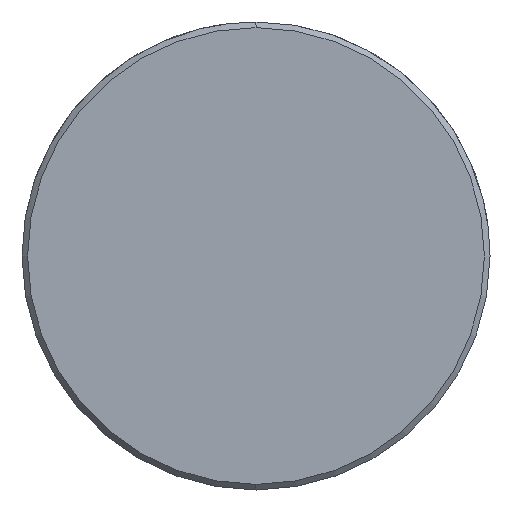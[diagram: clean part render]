
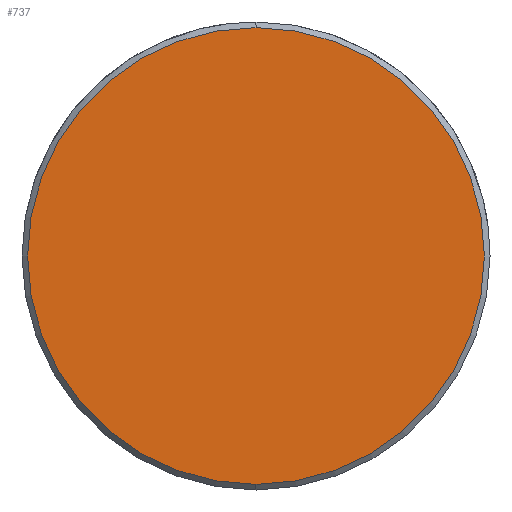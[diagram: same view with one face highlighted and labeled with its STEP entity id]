
A CAD part, left-side view. The second image highlights one B-rep face of the part: STEP entity #737.
In plain terms, the highlighted planar face has unit normal (-1, 0, 0).
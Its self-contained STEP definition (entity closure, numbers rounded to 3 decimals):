
#669=CARTESIAN_POINT('Vertex',(0.,0.,-12.2)) ;
#672=CARTESIAN_POINT('Axis2P3D Location',(0.,0.,0.)) ;
#676=CARTESIAN_POINT('Vertex',(0.,12.2,0.)) ;
#679=CARTESIAN_POINT('Axis2P3D Location',(0.,0.,0.)) ;
#683=CARTESIAN_POINT('Vertex',(0.,0.,12.2)) ;
#705=CARTESIAN_POINT('Axis2P3D Location',(0.,0.,0.)) ;
#709=CARTESIAN_POINT('Vertex',(0.,-12.2,0.)) ;
#712=CARTESIAN_POINT('Axis2P3D Location',(0.,0.,0.)) ;
#726=CARTESIAN_POINT('Axis2P3D Location',(0.,0.,0.)) ;
#673=DIRECTION('Axis2P3D Direction',(1.,0.,-0.)) ;
#680=DIRECTION('Axis2P3D Direction',(1.,0.,-0.)) ;
#706=DIRECTION('Axis2P3D Direction',(1.,0.,-0.)) ;
#713=DIRECTION('Axis2P3D Direction',(1.,0.,-0.)) ;
#727=DIRECTION('Axis2P3D Direction',(1.,0.,-0.)) ;
#728=DIRECTION('Axis2P3D XDirection',(-0.,0.,-1.)) ;
#674=AXIS2_PLACEMENT_3D('Circle Axis2P3D',#672,#673,$) ;
#681=AXIS2_PLACEMENT_3D('Circle Axis2P3D',#679,#680,$) ;
#707=AXIS2_PLACEMENT_3D('Circle Axis2P3D',#705,#706,$) ;
#714=AXIS2_PLACEMENT_3D('Circle Axis2P3D',#712,#713,$) ;
#729=AXIS2_PLACEMENT_3D('Plane Axis2P3D',#726,#727,#728) ;
#732=ORIENTED_EDGE('',*,*,#678,.F.) ;
#733=ORIENTED_EDGE('',*,*,#716,.F.) ;
#734=ORIENTED_EDGE('',*,*,#711,.F.) ;
#735=ORIENTED_EDGE('',*,*,#685,.F.) ;
#737=ADVANCED_FACE('549-22X100',(#736),#730,.F.) ;
#675=CIRCLE('generated circle',#674,12.2) ;
#682=CIRCLE('generated circle',#681,12.2) ;
#708=CIRCLE('generated circle',#707,12.2) ;
#715=CIRCLE('generated circle',#714,12.2) ;
#678=EDGE_CURVE('',#670,#677,#675,.T.) ;
#685=EDGE_CURVE('',#677,#684,#682,.T.) ;
#711=EDGE_CURVE('',#684,#710,#708,.T.) ;
#716=EDGE_CURVE('',#710,#670,#715,.T.) ;
#731=EDGE_LOOP('',(#732,#733,#734,#735)) ;
#736=FACE_OUTER_BOUND('',#731,.T.) ;
#730=PLANE('Plane',#729) ;
#670=VERTEX_POINT('',#669) ;
#677=VERTEX_POINT('',#676) ;
#684=VERTEX_POINT('',#683) ;
#710=VERTEX_POINT('',#709) ;
